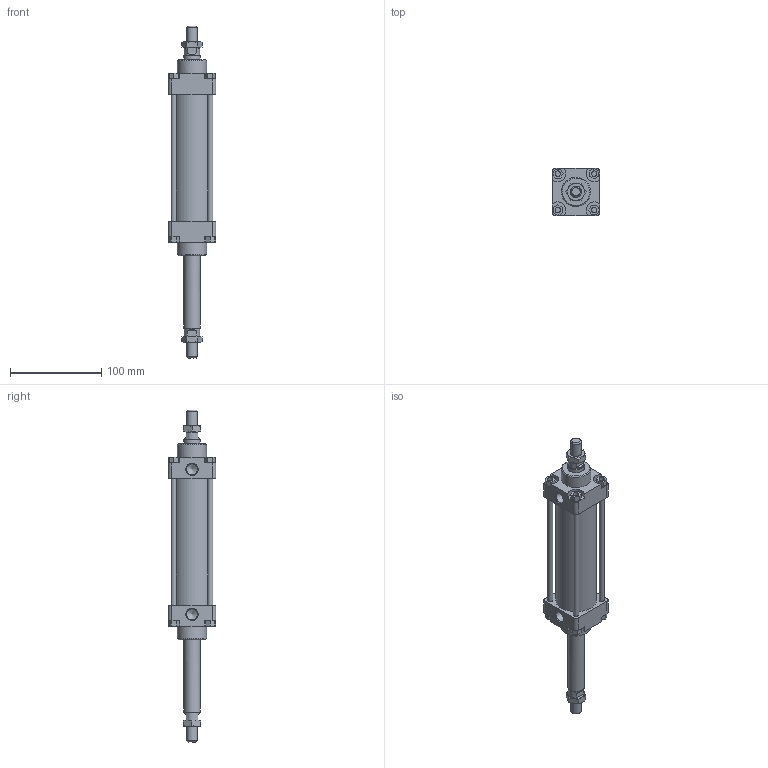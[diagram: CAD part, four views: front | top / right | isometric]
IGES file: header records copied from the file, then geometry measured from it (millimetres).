
Global section: file name: 130#_040_0075_02A; native system: Autodesk Inventor 2014; preprocessor: unknown; author: A. Manieri; date: 20161123.143722; units: millimetre
Bounding box: 52 x 52 x 364 mm (x, y, z)
Volume: 329076.4 mm3; surface area: 109130.9 mm2
Topology: 10 solids, 10 shells, 187 faces, 467 edges, 314 vertices
Faces by surface type: bspline 187
